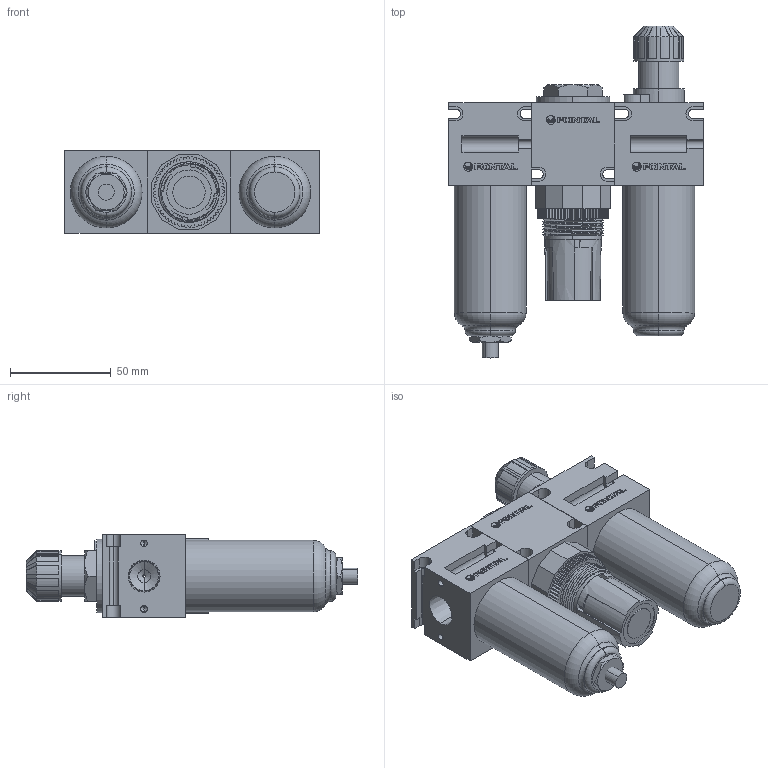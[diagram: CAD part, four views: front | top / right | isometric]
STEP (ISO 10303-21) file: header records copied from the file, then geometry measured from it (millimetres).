
FILE_DESCRIPTION (( 'STEP AP203' ), '1' );
FILE_NAME ('C45##-03#Y##.STEP', '2016-02-03T08:27:56', ( '' ), ( '' ), 'SwSTEP 2.0', 'SolidWorks 2014', '' );
FILE_SCHEMA (( 'CONFIG_CONTROL_DESIGN' ));
Length unit declared in the file: millimetre
Products named in the file (23): R364-2; F45-03#Y#; L45-2; R45-03; L45-03; R45#-03##; R45-3; R364-5; L45-1; R364-3; F45-2; R45-2; L508-5; F45-MARK; F45-03; C45##-03#Y##; F45-3; L45=03; L45-03#; R364-4
Assembly tree (25 placements, depth 4):
  C45##-03#Y##
    F45-03#Y#
      F45-03
      F45-2
      F45-3
      (unnamed)
      F45-MARK
    R45#-03##
      R45-03
      (unnamed)
        R364-2
        R364-3
        R364-4
        R364-5
      R45-2
      R45-3
      F45-MARK
    L45-03#
      (unnamed)
        L45-2
        L45-1
        L508-5
      L45=03
        F45-2
        F45-MARK
        L45-03
Bounding box: 126 x 164.5 x 41.12 mm (x, y, z)
Volume: 379344.8 mm3; surface area: 84960.8 mm2
Topology: 37 solids, 37 shells, 949 faces, 2528 edges, 1660 vertices
Faces by surface type: plane 590, cylinder 260, cone 57, bspline 30, torus 12
Entity records: 27570 total; most frequent: CARTESIAN_POINT 6163, ORIENTED_EDGE 4012, DIRECTION 3883, EDGE_CURVE 2006, LINE 1377, VECTOR 1377, VERTEX_POINT 1320, AXIS2_PLACEMENT_3D 1253
